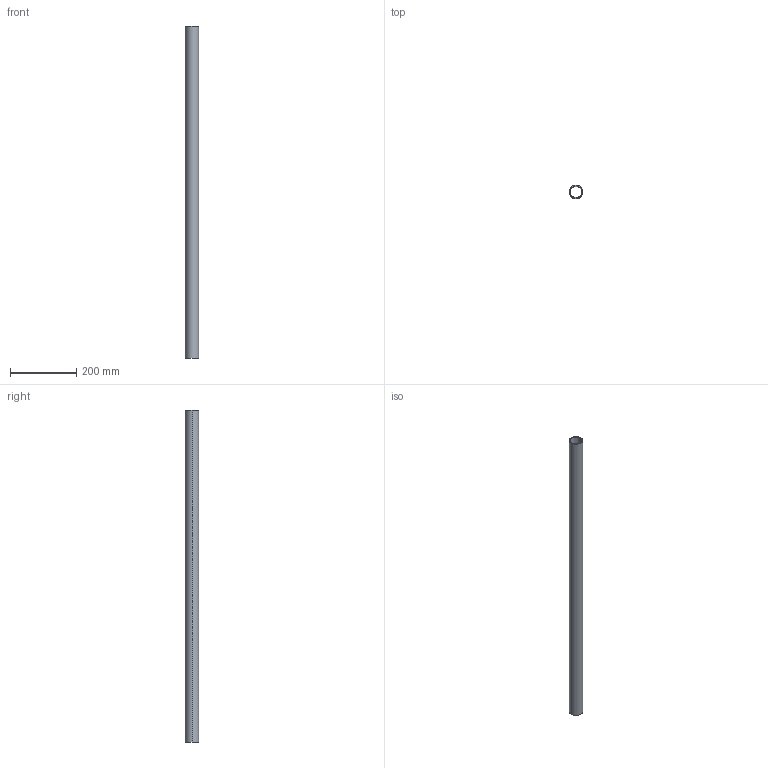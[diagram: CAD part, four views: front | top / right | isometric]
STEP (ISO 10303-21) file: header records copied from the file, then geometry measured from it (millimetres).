
FILE_DESCRIPTION (( 'STEP AP214' ), '1' );
FILE_NAME ('PAT40-1000.STEP', '2022-12-13T00:50:38', ( '' ), ( '' ), 'SwSTEP 2.0', 'SolidWorks 2018', '' );
FILE_SCHEMA (( 'AUTOMOTIVE_DESIGN' ));
Length unit declared in the file: millimetre
Products named in the file (1): PAT40-1000
Bounding box: 40 x 40 x 1000 mm (x, y, z)
Volume: 294524.3 mm3; surface area: 236208.5 mm2
Topology: 1 solids, 1 shells, 6 faces, 12 edges, 8 vertices
Faces by surface type: cylinder 4, plane 2
Entity records: 202 total; most frequent: DIRECTION 34, CARTESIAN_POINT 27, ORIENTED_EDGE 24, AXIS2_PLACEMENT_3D 15, EDGE_CURVE 12, CIRCLE 8, EDGE_LOOP 8, VERTEX_POINT 8
